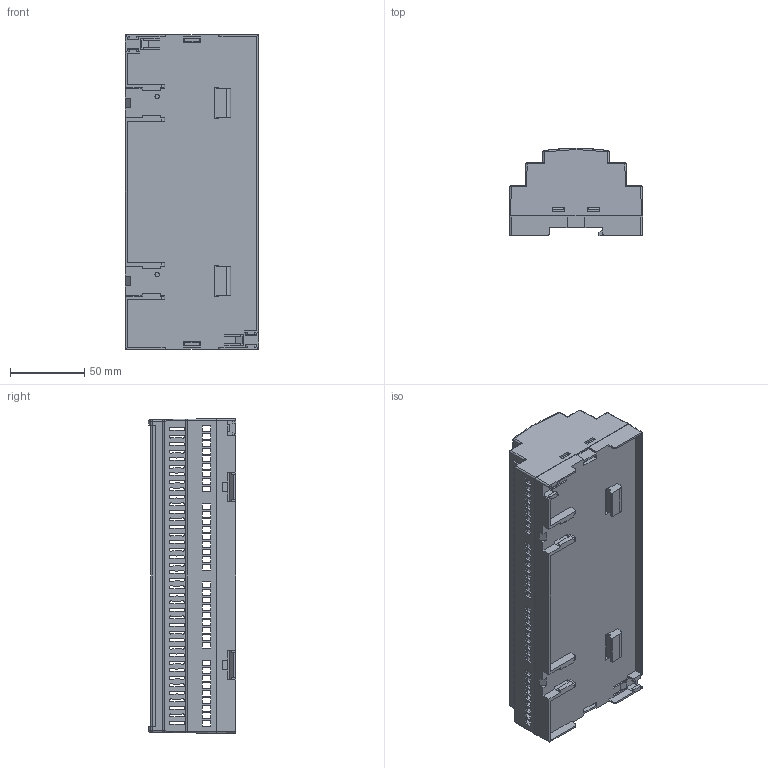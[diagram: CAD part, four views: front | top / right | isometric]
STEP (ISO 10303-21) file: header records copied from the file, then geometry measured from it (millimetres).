
FILE_DESCRIPTION (( 'STEP AP203' ), '1' );
FILE_NAME ('PT212-C.STEP', '2018-08-29T11:30:21', ( '' ), ( '' ), 'SwSTEP 2.0', 'SolidWorks 2018', '' );
FILE_SCHEMA (( 'CONFIG_CONTROL_DESIGN' ));
Length unit declared in the file: millimetre
Products named in the file (4): PT212-C
Assembly tree (3 placements, depth 2):
  PT212-C
    PT212-C
    PT212-C
    PT212-C
Bounding box: 90 x 58.9 x 212.1 mm (x, y, z)
Volume: 133718.9 mm3; surface area: 143872 mm2
Topology: 3 solids, 3 shells, 1703 faces, 5069 edges, 3364 vertices
Faces by surface type: cylinder 932, plane 720, bspline 23, cone 16, sphere 12
Entity records: 58831 total; most frequent: CARTESIAN_POINT 16255, ORIENTED_EDGE 10122, DIRECTION 7194, EDGE_CURVE 5061, VERTEX_POINT 3364, LINE 3068, VECTOR 3068, EDGE_LOOP 2193
